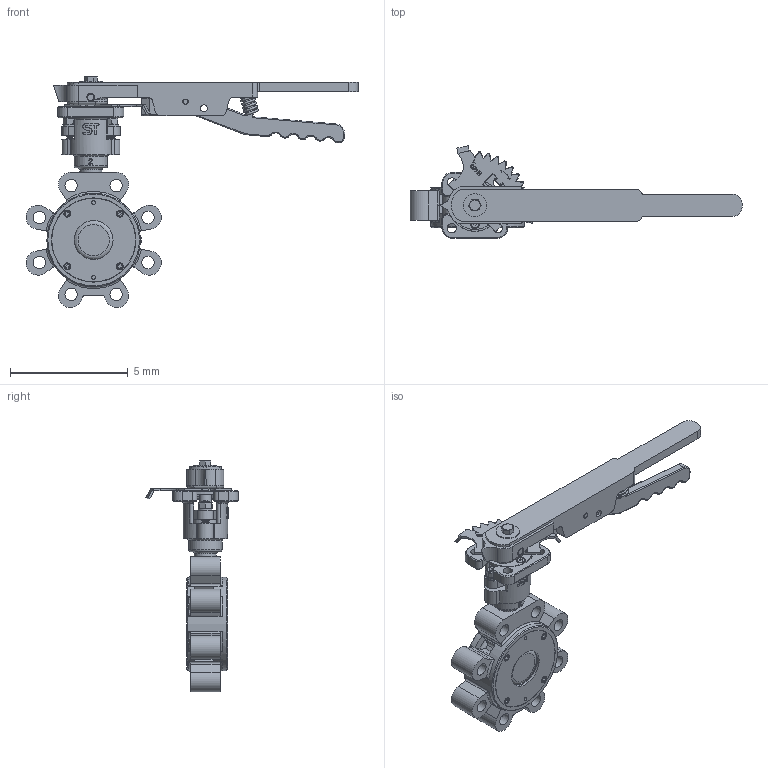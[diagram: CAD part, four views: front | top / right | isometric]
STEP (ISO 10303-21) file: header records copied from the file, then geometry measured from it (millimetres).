
FILE_DESCRIPTION(('Open CASCADE Model'),'2;1');
FILE_NAME('Open CASCADE Shape Model','2022-07-21T07:45:13',('Author'),( 'Open CASCADE'),'Open CASCADE STEP processor 7.3','Open CASCADE 7.3' ,'Unknown');
FILE_SCHEMA(('AUTOMOTIVE_DESIGN { 1 0 10303 214 1 1 1 1 }'));
Length unit declared in the file: millimetre
Products named in the file (36): Open CASCADE STEP translator 7.3 1; Open CASCADE STEP translator 7.3 1.1; Open CASCADE STEP translator 7.3 1.2; Open CASCADE STEP translator 7.3 1.3; Open CASCADE STEP translator 7.3 1.4; Open CASCADE STEP translator 7.3 1.5; Open CASCADE STEP translator 7.3 1.6; Open CASCADE STEP translator 7.3 1.7; Open CASCADE STEP translator 7.3 1.8; Open CASCADE STEP translator 7.3 1.9; Open CASCADE STEP translator 7.3 1.10; Open CASCADE STEP translator 7.3 1.11; Open CASCADE STEP translator 7.3 1.12; Open CASCADE STEP translator 7.3 1.13; Open CASCADE STEP translator 7.3 1.14; Open CASCADE STEP translator 7.3 1.15; Open CASCADE STEP translator 7.3 1.16; Open CASCADE STEP translator 7.3 1.17; Open CASCADE STEP translator 7.3 1.18; Open CASCADE STEP translator 7.3 1.19; Open CASCADE STEP translator 7.3 1.20; Open CASCADE STEP translator 7.3 1.21; Open CASCADE STEP translator 7.3 1.22; Open CASCADE STEP translator 7.3 1.23; Open CASCADE STEP translator 7.3 1.24; Open CASCADE STEP translator 7.3 1.25; Open CASCADE STEP translator 7.3 1.26; Open CASCADE STEP translator 7.3 1.27; Open CASCADE STEP translator 7.3 1.28; Open CASCADE STEP translator 7.3 1.29; Open CASCADE STEP translator 7.3 1.30; Open CASCADE STEP translator 7.3 1.31; Open CASCADE STEP translator 7.3 1.32; Open CASCADE STEP translator 7.3 1.33; Open CASCADE STEP translator 7.3 1.34; Open CASCADE STEP translator 7.3 1.35
Assembly tree (35 placements, depth 2):
  Open CASCADE STEP translator 7.3 1
    Open CASCADE STEP translator 7.3 1.1
    Open CASCADE STEP translator 7.3 1.2
    Open CASCADE STEP translator 7.3 1.3
    Open CASCADE STEP translator 7.3 1.4
    Open CASCADE STEP translator 7.3 1.5
    Open CASCADE STEP translator 7.3 1.6
    Open CASCADE STEP translator 7.3 1.7
    Open CASCADE STEP translator 7.3 1.8
    Open CASCADE STEP translator 7.3 1.9
    Open CASCADE STEP translator 7.3 1.10
    Open CASCADE STEP translator 7.3 1.11
    Open CASCADE STEP translator 7.3 1.12
    Open CASCADE STEP translator 7.3 1.13
    Open CASCADE STEP translator 7.3 1.14
    Open CASCADE STEP translator 7.3 1.15
    Open CASCADE STEP translator 7.3 1.16
    Open CASCADE STEP translator 7.3 1.17
    Open CASCADE STEP translator 7.3 1.18
    Open CASCADE STEP translator 7.3 1.19
    Open CASCADE STEP translator 7.3 1.20
    Open CASCADE STEP translator 7.3 1.21
    Open CASCADE STEP translator 7.3 1.22
    Open CASCADE STEP translator 7.3 1.23
    Open CASCADE STEP translator 7.3 1.24
    Open CASCADE STEP translator 7.3 1.25
    Open CASCADE STEP translator 7.3 1.26
    Open CASCADE STEP translator 7.3 1.27
    Open CASCADE STEP translator 7.3 1.28
    Open CASCADE STEP translator 7.3 1.29
    Open CASCADE STEP translator 7.3 1.30
    Open CASCADE STEP translator 7.3 1.31
    Open CASCADE STEP translator 7.3 1.32
    Open CASCADE STEP translator 7.3 1.33
    Open CASCADE STEP translator 7.3 1.34
    Open CASCADE STEP translator 7.3 1.35
Bounding box: 14.13 x 3.93 x 9.84 mm (x, y, z)
Volume: 42.6 mm3; surface area: 375.7 mm2
Topology: 35 solids, 35 shells, 1218 faces, 2891 edges, 1804 vertices
Faces by surface type: plane 531, cylinder 364, cone 155, torus 113, bspline 40, sphere 15
Full cylindrical faces by diameter (mm): 0.163 x2, 0.165 x2, 0.177 x8, 0.194 x1, 0.197 x2, 0.236 x7, 0.276 x4, 0.295 x7, 0.315 x10, 0.394 x10, 0.512 x6, 0.524 x1, 0.527 x8, 0.532 x1, 0.552 x1, 0.575 x2, 0.946 x1, 0.985 x1, 1.087 x2, 1.103 x4, 1.418 x1, 1.655 x1, 1.812 x1, 1.868 x1, 2.12 x1, 2.159 x1, 2.277 x1, 2.285 x1, 2.364 x1, 2.443 x2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
Entity records: 123684 total; most frequent: CARTESIAN_POINT 65056, DIRECTION 10927, ORIENTED_EDGE 5760, PCURVE 5760, DEFINITIONAL_REPRESENTATION 5760, LINE 5757, VECTOR 5757, EDGE_CURVE 2880
